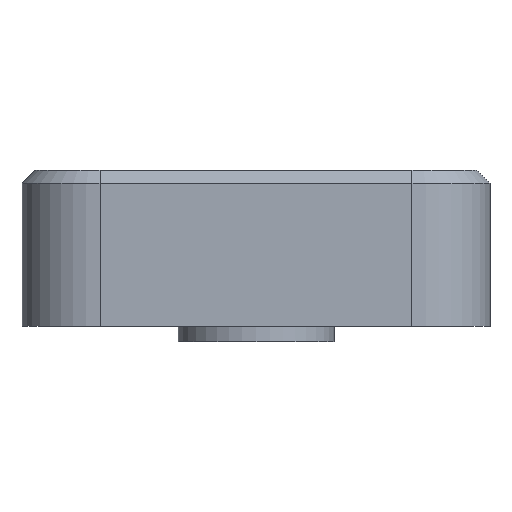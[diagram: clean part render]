
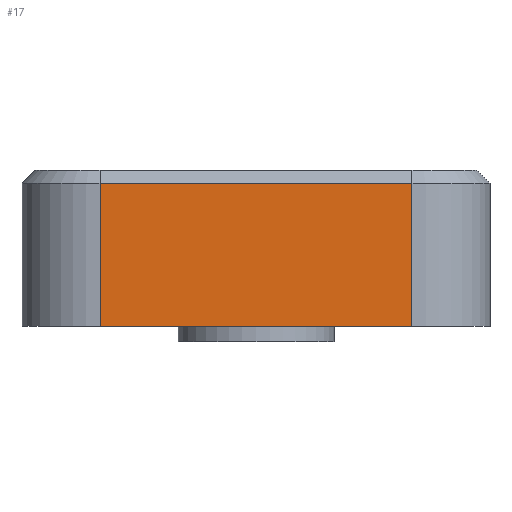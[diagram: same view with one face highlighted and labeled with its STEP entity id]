
A CAD part, left-side view. The second image highlights one B-rep face of the part: STEP entity #17.
In plain terms, the highlighted planar face has unit normal (-1, 0, 0).
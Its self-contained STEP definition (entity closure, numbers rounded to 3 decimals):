
#17 = ADVANCED_FACE('',(#18),#32,.F.);
#18 = FACE_BOUND('',#19,.F.);
#19 = EDGE_LOOP('',(#20,#55,#83,#111));
#20 = ORIENTED_EDGE('',*,*,#21,.F.);
#21 = EDGE_CURVE('',#22,#24,#26,.T.);
#22 = VERTEX_POINT('',#23);
#23 = CARTESIAN_POINT('',(-18.525,-6.,0.));
#24 = VERTEX_POINT('',#25);
#25 = CARTESIAN_POINT('',(-18.525,-6.,5.5));
#26 = SURFACE_CURVE('',#27,(#31,#43),.PCURVE_S1.);
#27 = LINE('',#28,#29);
#28 = CARTESIAN_POINT('',(-18.525,-6.,0.));
#29 = VECTOR('',#30,1.);
#30 = DIRECTION('',(0.,0.,1.));
#31 = PCURVE('',#32,#37);
#32 = PLANE('',#33);
#33 = AXIS2_PLACEMENT_3D('',#34,#35,#36);
#34 = CARTESIAN_POINT('',(-18.525,-9.,0.));
#35 = DIRECTION('',(1.,0.,0.));
#36 = DIRECTION('',(0.,0.,1.));
#37 = DEFINITIONAL_REPRESENTATION('',(#38),#42);
#38 = LINE('',#39,#40);
#39 = CARTESIAN_POINT('',(0.,-3.));
#40 = VECTOR('',#41,1.);
#41 = DIRECTION('',(1.,0.));
#42 = ( GEOMETRIC_REPRESENTATION_CONTEXT(2) 
PARAMETRIC_REPRESENTATION_CONTEXT() REPRESENTATION_CONTEXT('2D SPACE',''
  ) );
#43 = PCURVE('',#44,#49);
#44 = CYLINDRICAL_SURFACE('',#45,3.);
#45 = AXIS2_PLACEMENT_3D('',#46,#47,#48);
#46 = CARTESIAN_POINT('',(-15.525,-6.,0.));
#47 = DIRECTION('',(0.,0.,1.));
#48 = DIRECTION('',(-1.,-0.,0.));
#49 = DEFINITIONAL_REPRESENTATION('',(#50),#54);
#50 = LINE('',#51,#52);
#51 = CARTESIAN_POINT('',(0.,0.));
#52 = VECTOR('',#53,1.);
#53 = DIRECTION('',(0.,1.));
#54 = ( GEOMETRIC_REPRESENTATION_CONTEXT(2) 
PARAMETRIC_REPRESENTATION_CONTEXT() REPRESENTATION_CONTEXT('2D SPACE',''
  ) );
#55 = ORIENTED_EDGE('',*,*,#56,.T.);
#56 = EDGE_CURVE('',#22,#57,#59,.T.);
#57 = VERTEX_POINT('',#58);
#58 = CARTESIAN_POINT('',(-18.525,6.,0.));
#59 = SURFACE_CURVE('',#60,(#64,#71),.PCURVE_S1.);
#60 = LINE('',#61,#62);
#61 = CARTESIAN_POINT('',(-18.525,-9.,0.));
#62 = VECTOR('',#63,1.);
#63 = DIRECTION('',(0.,1.,0.));
#64 = PCURVE('',#32,#65);
#65 = DEFINITIONAL_REPRESENTATION('',(#66),#70);
#66 = LINE('',#67,#68);
#67 = CARTESIAN_POINT('',(0.,0.));
#68 = VECTOR('',#69,1.);
#69 = DIRECTION('',(0.,-1.));
#70 = ( GEOMETRIC_REPRESENTATION_CONTEXT(2) 
PARAMETRIC_REPRESENTATION_CONTEXT() REPRESENTATION_CONTEXT('2D SPACE',''
  ) );
#71 = PCURVE('',#72,#77);
#72 = PLANE('',#73);
#73 = AXIS2_PLACEMENT_3D('',#74,#75,#76);
#74 = CARTESIAN_POINT('',(-18.525,-9.,0.));
#75 = DIRECTION('',(0.,0.,1.));
#76 = DIRECTION('',(1.,0.,0.));
#77 = DEFINITIONAL_REPRESENTATION('',(#78),#82);
#78 = LINE('',#79,#80);
#79 = CARTESIAN_POINT('',(0.,0.));
#80 = VECTOR('',#81,1.);
#81 = DIRECTION('',(0.,1.));
#82 = ( GEOMETRIC_REPRESENTATION_CONTEXT(2) 
PARAMETRIC_REPRESENTATION_CONTEXT() REPRESENTATION_CONTEXT('2D SPACE',''
  ) );
#83 = ORIENTED_EDGE('',*,*,#84,.T.);
#84 = EDGE_CURVE('',#57,#85,#87,.T.);
#85 = VERTEX_POINT('',#86);
#86 = CARTESIAN_POINT('',(-18.525,6.,5.5));
#87 = SURFACE_CURVE('',#88,(#92,#99),.PCURVE_S1.);
#88 = LINE('',#89,#90);
#89 = CARTESIAN_POINT('',(-18.525,6.,0.));
#90 = VECTOR('',#91,1.);
#91 = DIRECTION('',(0.,0.,1.));
#92 = PCURVE('',#32,#93);
#93 = DEFINITIONAL_REPRESENTATION('',(#94),#98);
#94 = LINE('',#95,#96);
#95 = CARTESIAN_POINT('',(0.,-15.));
#96 = VECTOR('',#97,1.);
#97 = DIRECTION('',(1.,0.));
#98 = ( GEOMETRIC_REPRESENTATION_CONTEXT(2) 
PARAMETRIC_REPRESENTATION_CONTEXT() REPRESENTATION_CONTEXT('2D SPACE',''
  ) );
#99 = PCURVE('',#100,#105);
#100 = CYLINDRICAL_SURFACE('',#101,3.);
#101 = AXIS2_PLACEMENT_3D('',#102,#103,#104);
#102 = CARTESIAN_POINT('',(-15.525,6.,0.));
#103 = DIRECTION('',(0.,0.,1.));
#104 = DIRECTION('',(-1.,-0.,0.));
#105 = DEFINITIONAL_REPRESENTATION('',(#106),#110);
#106 = LINE('',#107,#108);
#107 = CARTESIAN_POINT('',(-0.,0.));
#108 = VECTOR('',#109,1.);
#109 = DIRECTION('',(-0.,1.));
#110 = ( GEOMETRIC_REPRESENTATION_CONTEXT(2) 
PARAMETRIC_REPRESENTATION_CONTEXT() REPRESENTATION_CONTEXT('2D SPACE',''
  ) );
#111 = ORIENTED_EDGE('',*,*,#112,.F.);
#112 = EDGE_CURVE('',#24,#85,#113,.T.);
#113 = SURFACE_CURVE('',#114,(#118,#125),.PCURVE_S1.);
#114 = LINE('',#115,#116);
#115 = CARTESIAN_POINT('',(-18.525,-6.,5.5));
#116 = VECTOR('',#117,1.);
#117 = DIRECTION('',(0.,1.,0.));
#118 = PCURVE('',#32,#119);
#119 = DEFINITIONAL_REPRESENTATION('',(#120),#124);
#120 = LINE('',#121,#122);
#121 = CARTESIAN_POINT('',(5.5,-3.));
#122 = VECTOR('',#123,1.);
#123 = DIRECTION('',(0.,-1.));
#124 = ( GEOMETRIC_REPRESENTATION_CONTEXT(2) 
PARAMETRIC_REPRESENTATION_CONTEXT() REPRESENTATION_CONTEXT('2D SPACE',''
  ) );
#125 = PCURVE('',#126,#131);
#126 = PLANE('',#127);
#127 = AXIS2_PLACEMENT_3D('',#128,#129,#130);
#128 = CARTESIAN_POINT('',(-18.275,-6.,5.75));
#129 = DIRECTION('',(0.707,0.,-0.707)
  );
#130 = DIRECTION('',(0.,1.,0.));
#131 = DEFINITIONAL_REPRESENTATION('',(#132),#136);
#132 = LINE('',#133,#134);
#133 = CARTESIAN_POINT('',(0.,-0.354));
#134 = VECTOR('',#135,1.);
#135 = DIRECTION('',(1.,0.));
#136 = ( GEOMETRIC_REPRESENTATION_CONTEXT(2) 
PARAMETRIC_REPRESENTATION_CONTEXT() REPRESENTATION_CONTEXT('2D SPACE',''
  ) );
